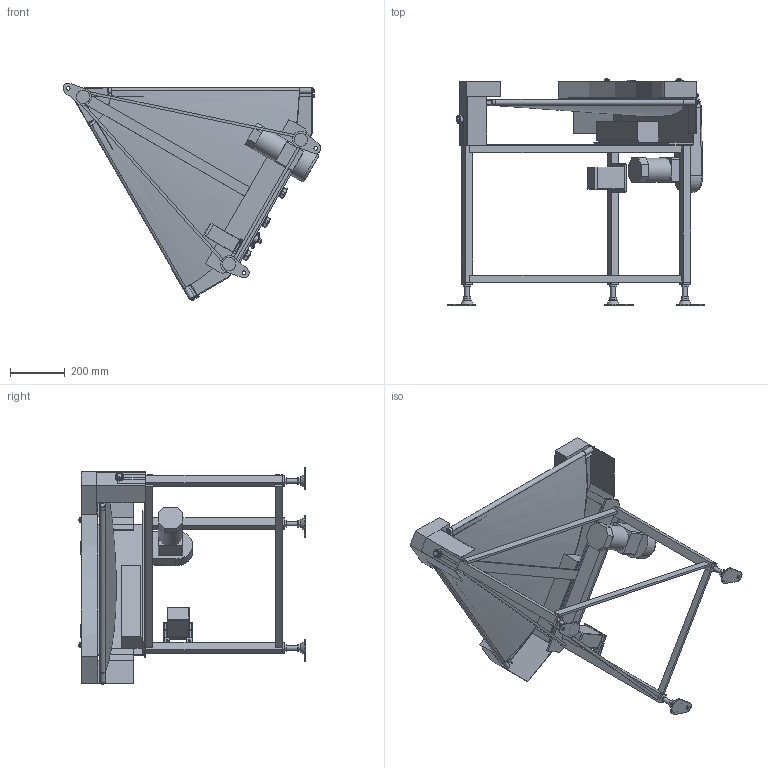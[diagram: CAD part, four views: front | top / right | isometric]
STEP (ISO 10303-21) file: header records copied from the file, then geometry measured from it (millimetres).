
FILE_DESCRIPTION (( 'STEP AP214' ), '1' );
FILE_NAME ('GBC60-UD600-R.STEP', '2022-12-05T23:43:42', ( '' ), ( '' ), 'SwSTEP 2.0', 'SolidWorks 2017', '' );
FILE_SCHEMA (( 'AUTOMOTIVE_DESIGN' ));
Length unit declared in the file: millimetre
Products named in the file (1): GBC60-UD600-R
Bounding box: 943.04 x 827.92 x 796.01 mm (x, y, z)
Volume: 18565551.5 mm3; surface area: 4229111.1 mm2
Topology: 56 solids, 56 shells, 917 faces, 2083 edges, 1337 vertices
Faces by surface type: plane 573, cylinder 185, cone 73, bspline 71, torus 8, sphere 7
Full cylindrical faces by diameter (mm): 4.2 x4, 4.5 x2, 5 x4, 6 x13, 6.4 x4, 7 x3, 8 x1, 9 x2, 10 x6, 12 x1, 12.2 x2, 12.5 x7, 13 x7, 15 x4, 16 x10, 18 x2, 18.4 x1, 20 x6, 21 x1, 22.2 x1, 25 x1, 30 x1, 89 x1
Entity records: 33912 total; most frequent: CARTESIAN_POINT 13792, ORIENTED_EDGE 3866, DIRECTION 3781, EDGE_CURVE 1933, VERTEX_POINT 1308, AXIS2_PLACEMENT_3D 1303, LINE 1175, VECTOR 1175
